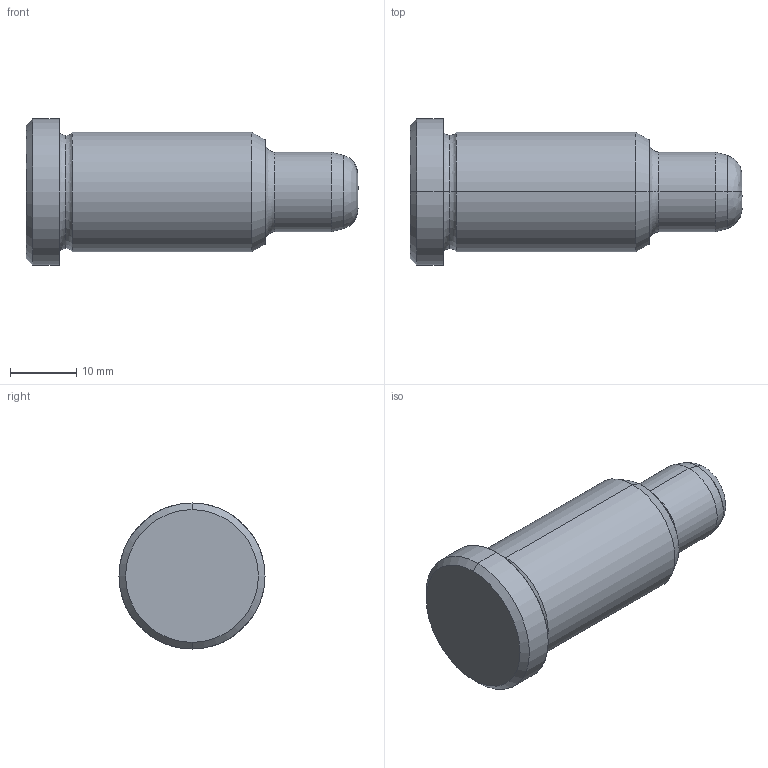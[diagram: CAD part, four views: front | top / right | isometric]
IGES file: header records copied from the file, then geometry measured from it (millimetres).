
Start section: START RECORD GO HERE.
Global section: file name: 351-12X36X50.igs; native system: DASSAULT SYSTEMES CATIA V5 R20 - www.3ds.com; preprocessor: CATIA Version 5 Release 20 ; author: Utente; organization: NB04-ASUS; date: 20210817.143148; units: millimetre
Bounding box: 50 x 22 x 22 mm (x, y, z)
Surface area: 3213.9 mm2 (no closed solid volume)
Topology: 0 solids, 0 shells, 24 faces, 140 edges, 140 vertices
Faces by surface type: revolution 18, plane 4, bspline 2
